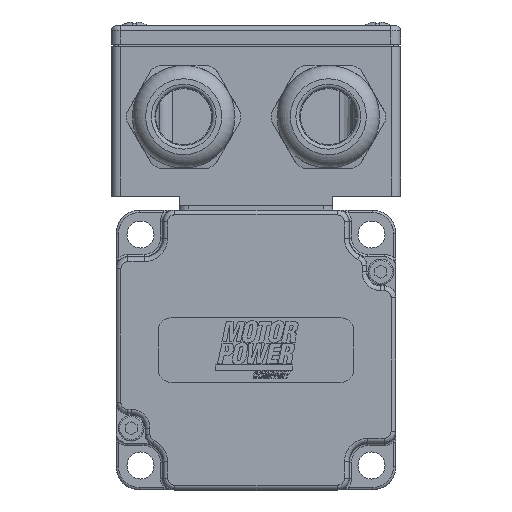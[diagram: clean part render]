
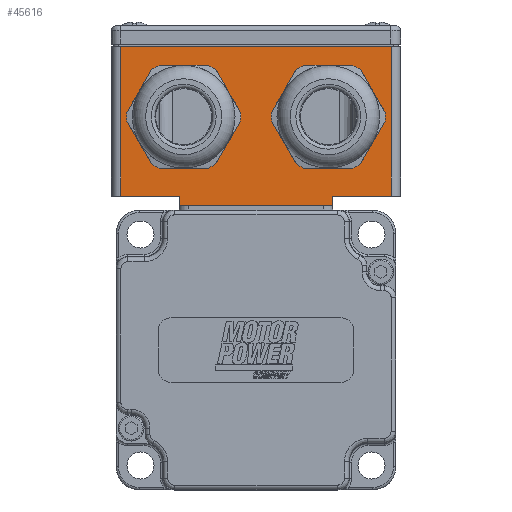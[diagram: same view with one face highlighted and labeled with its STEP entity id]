
A CAD part, front view. The second image highlights one B-rep face of the part: STEP entity #45616.
In plain terms, the highlighted planar face has unit normal (0, -1, 0) as drawn and (-1, 0, 0) by its records, which use the part's own axes.
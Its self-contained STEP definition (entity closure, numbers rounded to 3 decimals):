
#2039=PLANE('',#49321);
#3868=CIRCLE('',#49322,9.865);
#3869=CIRCLE('',#49323,9.865);
#14290=ORIENTED_EDGE('',*,*,#19662,.F.);
#14291=ORIENTED_EDGE('',*,*,#19663,.F.);
#14292=ORIENTED_EDGE('',*,*,#19567,.T.);
#14293=ORIENTED_EDGE('',*,*,#19664,.F.);
#14294=ORIENTED_EDGE('',*,*,#19665,.F.);
#14295=ORIENTED_EDGE('',*,*,#19666,.T.);
#14296=ORIENTED_EDGE('',*,*,#19578,.T.);
#14297=ORIENTED_EDGE('',*,*,#19644,.F.);
#14298=ORIENTED_EDGE('',*,*,#19667,.F.);
#14299=ORIENTED_EDGE('',*,*,#19660,.T.);
#19567=EDGE_CURVE('',#23076,#23074,#25867,.T.);
#19578=EDGE_CURVE('',#23082,#23086,#25873,.T.);
#19644=EDGE_CURVE('',#23148,#23086,#25902,.T.);
#19660=EDGE_CURVE('',#23157,#23076,#25915,.T.);
#19662=EDGE_CURVE('',#23158,#23158,#3868,.T.);
#19663=EDGE_CURVE('',#23159,#23159,#3869,.T.);
#19664=EDGE_CURVE('',#23160,#23074,#25916,.T.);
#19665=EDGE_CURVE('',#23161,#23160,#25917,.T.);
#19666=EDGE_CURVE('',#23161,#23082,#25918,.T.);
#19667=EDGE_CURVE('',#23157,#23148,#25919,.T.);
#23074=VERTEX_POINT('',#77656);
#23076=VERTEX_POINT('',#77659);
#23082=VERTEX_POINT('',#77672);
#23086=VERTEX_POINT('',#77680);
#23148=VERTEX_POINT('',#77815);
#23157=VERTEX_POINT('',#77846);
#23158=VERTEX_POINT('',#77850);
#23159=VERTEX_POINT('',#77852);
#23160=VERTEX_POINT('',#77854);
#23161=VERTEX_POINT('',#77856);
#25867=LINE('',#77658,#28586);
#25873=LINE('',#77681,#28592);
#25902=LINE('',#77814,#28621);
#25915=LINE('',#77845,#28634);
#25916=LINE('',#77853,#28635);
#25917=LINE('',#77855,#28636);
#25918=LINE('',#77857,#28637);
#25919=LINE('',#77858,#28638);
#28586=VECTOR('',#59016,1000.);
#28592=VECTOR('',#59034,1000.);
#28621=VECTOR('',#59149,1000.);
#28634=VECTOR('',#59180,1000.);
#28635=VECTOR('',#59189,1000.);
#28636=VECTOR('',#59190,1000.);
#28637=VECTOR('',#59191,1000.);
#28638=VECTOR('',#59192,1000.);
#31275=EDGE_LOOP('',(#14290));
#31276=EDGE_LOOP('',(#14291));
#31277=EDGE_LOOP('',(#14292,#14293,#14294,#14295,#14296,#14297,#14298,#14299));
#34033=FACE_BOUND('',#31275,.T.);
#34034=FACE_BOUND('',#31276,.T.);
#34035=FACE_BOUND('',#31277,.T.);
#45616=ADVANCED_FACE('',(#34033,#34034,#34035),#2039,.F.);
#49321=AXIS2_PLACEMENT_3D('',#77848,#59183,#59184);
#49322=AXIS2_PLACEMENT_3D('',#77849,#59185,#59186);
#49323=AXIS2_PLACEMENT_3D('',#77851,#59187,#59188);
#59016=DIRECTION('',(0.,-1.,0.));
#59034=DIRECTION('',(0.,-1.,0.));
#59149=DIRECTION('',(0.,0.,-1.));
#59180=DIRECTION('',(0.,0.,-1.));
#59183=DIRECTION('',(1.,0.,0.));
#59184=DIRECTION('',(0.,0.,-1.));
#59185=DIRECTION('',(-1.,0.,0.));
#59186=DIRECTION('',(0.,-1.,0.));
#59187=DIRECTION('',(-1.,0.,0.));
#59188=DIRECTION('',(0.,-1.,0.));
#59189=DIRECTION('',(0.,0.,1.));
#59190=DIRECTION('',(0.,1.,0.));
#59191=DIRECTION('',(0.,0.,1.));
#59192=DIRECTION('',(0.,-1.,0.));
#77656=CARTESIAN_POINT('',(-37.5,16.5,0.));
#77658=CARTESIAN_POINT('',(-37.5,29.,0.));
#77659=CARTESIAN_POINT('',(-37.5,29.,0.));
#77672=CARTESIAN_POINT('',(-37.5,-16.5,0.));
#77680=CARTESIAN_POINT('',(-37.5,-29.,0.));
#77681=CARTESIAN_POINT('',(-37.5,29.,0.));
#77814=CARTESIAN_POINT('',(-37.5,-29.,32.));
#77815=CARTESIAN_POINT('',(-37.5,-29.,32.));
#77845=CARTESIAN_POINT('',(-37.5,29.,32.));
#77846=CARTESIAN_POINT('',(-37.5,29.,32.));
#77848=CARTESIAN_POINT('',(-37.5,29.,32.));
#77849=CARTESIAN_POINT('',(-37.5,15.5,17.));
#77850=CARTESIAN_POINT('',(-37.5,5.635,17.));
#77851=CARTESIAN_POINT('',(-37.5,-15.5,17.));
#77852=CARTESIAN_POINT('',(-37.5,-25.365,17.));
#77853=CARTESIAN_POINT('',(-37.5,16.5,-2.));
#77854=CARTESIAN_POINT('',(-37.5,16.5,-2.));
#77855=CARTESIAN_POINT('',(-37.5,-16.5,-2.));
#77856=CARTESIAN_POINT('',(-37.5,-16.5,-2.));
#77857=CARTESIAN_POINT('',(-37.5,-16.5,-2.));
#77858=CARTESIAN_POINT('',(-37.5,29.,32.));
